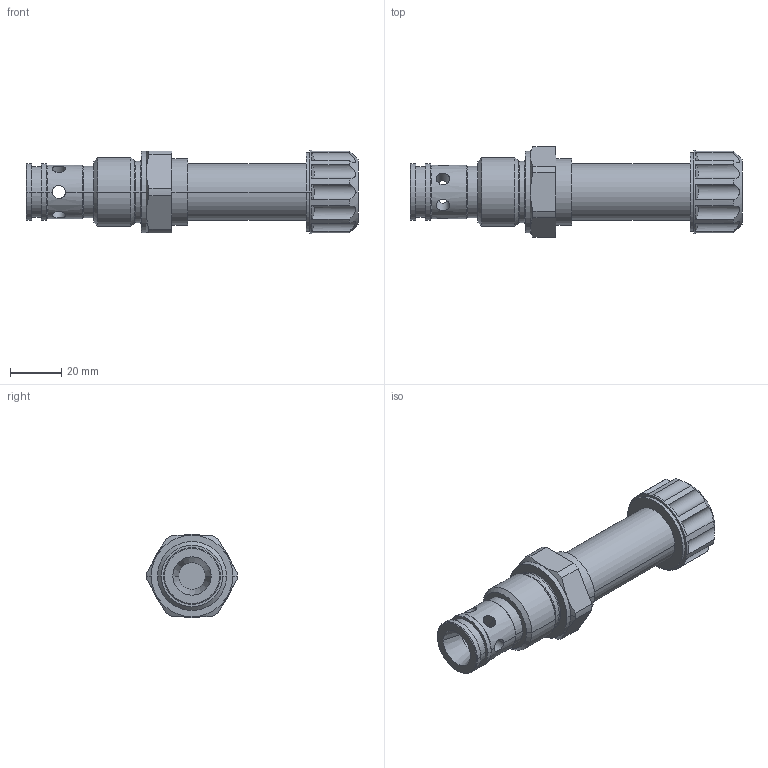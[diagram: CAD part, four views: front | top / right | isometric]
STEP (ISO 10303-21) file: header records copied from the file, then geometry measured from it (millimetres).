
FILE_DESCRIPTION((''),'2;1');
FILE_NAME('SD3E_C2_H2L2M9_342547','2022-04-08T',('l.soukupova'),(''),'PRO/ENGINEER BY PARAMETRIC TECHNOLOGY CORPORATION, 2015440','PRO/ENGINEER BY PARAMETRIC TECHNOLOGY CORPORATION, 2015440','');
FILE_SCHEMA(('AUTOMOTIVE_DESIGN { 1 0 10303 214 1 1 1 1 }'));
Length unit declared in the file: millimetre
Products named in the file (1): SD3E_C2_H2L2M9_342547
Bounding box: 129.8 x 35.4 x 32.6 mm (x, y, z)
Volume: 62343.1 mm3; surface area: 14346.7 mm2
Topology: 1 solids, 1 shells, 108 faces, 277 edges, 192 vertices
Faces by surface type: cylinder 58, cone 28, plane 18, torus 4
Entity records: 6875 total; most frequent: CARTESIAN_POINT 2399, DIRECTION 589, ORIENTED_EDGE 520, PRESENTATION_STYLE_ASSIGNMENT 368, STYLED_ITEM 296, CURVE_STYLE 295, EDGE_CURVE 260, AXIS2_PLACEMENT_3D 236
